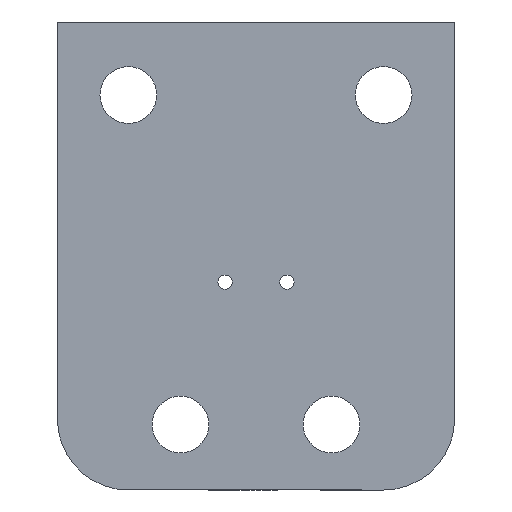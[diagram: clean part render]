
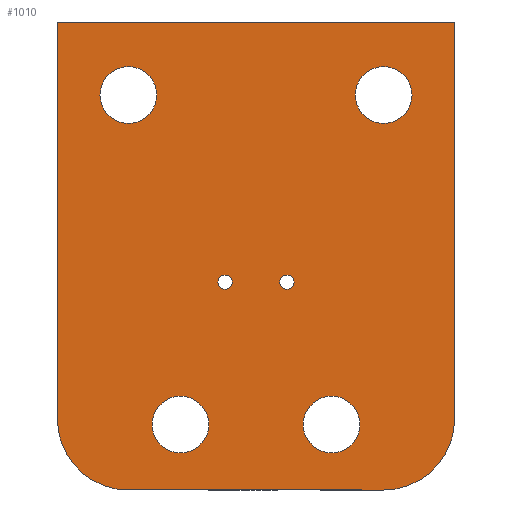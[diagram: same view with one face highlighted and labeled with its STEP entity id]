
A CAD part, left-side view. The second image highlights one B-rep face of the part: STEP entity #1010.
In plain terms, the highlighted planar face has unit normal (-1, 0, 0).
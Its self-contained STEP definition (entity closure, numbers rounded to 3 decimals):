
#136=CARTESIAN_POINT('',(-9.,-1.683,14.657));
#137=VERTEX_POINT('',#136);
#152=CARTESIAN_POINT('',(-9.,-2.183,14.657));
#153=DIRECTION('',(0.,1.,0.));
#154=DIRECTION('',(-1.,0.,0.));
#155=AXIS2_PLACEMENT_3D('',#152,#154,#153);
#156=CIRCLE('',#155,0.5);
#157=EDGE_CURVE('',#137,#137,#156,.T.);
#169=CARTESIAN_POINT('',(-9.,2.683,14.657));
#170=VERTEX_POINT('',#169);
#185=CARTESIAN_POINT('',(-9.,2.183,14.657));
#186=DIRECTION('',(0.,1.,0.));
#187=DIRECTION('',(-1.,0.,0.));
#188=AXIS2_PLACEMENT_3D('',#185,#187,#186);
#189=CIRCLE('',#188,0.5);
#190=EDGE_CURVE('',#170,#170,#189,.T.);
#202=CARTESIAN_POINT('',(-9.,11.,27.85));
#203=VERTEX_POINT('',#202);
#218=CARTESIAN_POINT('',(-9.,9.,27.85));
#219=DIRECTION('',(0.,1.,0.));
#220=DIRECTION('',(-1.,0.,0.));
#221=AXIS2_PLACEMENT_3D('',#218,#220,#219);
#222=CIRCLE('',#221,2.);
#223=EDGE_CURVE('',#203,#203,#222,.T.);
#242=CARTESIAN_POINT('',(-9.,-7.,27.85));
#243=VERTEX_POINT('',#242);
#250=CARTESIAN_POINT('',(-9.,-9.,27.85));
#251=DIRECTION('',(0.,1.,0.));
#252=DIRECTION('',(-1.,0.,0.));
#253=AXIS2_PLACEMENT_3D('',#250,#252,#251);
#254=CIRCLE('',#253,2.);
#255=EDGE_CURVE('',#243,#243,#254,.T.);
#276=CARTESIAN_POINT('',(-9.,9.,0.));
#277=VERTEX_POINT('',#276);
#284=CARTESIAN_POINT('',(-9.,-9.,0.));
#285=VERTEX_POINT('',#284);
#286=CARTESIAN_POINT('',(-9.,-9.,0.));
#287=DIRECTION('',(0.,1.,0.));
#288=VECTOR('',#287,18.);
#289=LINE('',#286,#288);
#290=EDGE_CURVE('',#285,#277,#289,.T.);
#309=CARTESIAN_POINT('',(-9.,14.,5.));
#310=VERTEX_POINT('',#309);
#311=CARTESIAN_POINT('',(-9.,14.,33.));
#312=VERTEX_POINT('',#311);
#313=CARTESIAN_POINT('',(-9.,14.,5.));
#314=DIRECTION('',(0.,0.,1.));
#315=VECTOR('',#314,28.);
#316=LINE('',#313,#315);
#317=EDGE_CURVE('',#310,#312,#316,.T.);
#359=CARTESIAN_POINT('',(-9.,-14.,5.));
#360=VERTEX_POINT('',#359);
#367=CARTESIAN_POINT('',(-9.,-14.,33.));
#368=VERTEX_POINT('',#367);
#369=CARTESIAN_POINT('',(-9.,-14.,33.));
#370=DIRECTION('',(0.,0.,-1.));
#371=VECTOR('',#370,28.);
#372=LINE('',#369,#371);
#373=EDGE_CURVE('',#368,#360,#372,.T.);
#398=CARTESIAN_POINT('',(-9.,9.,5.));
#399=DIRECTION('',(0.,1.,0.));
#400=DIRECTION('',(-1.,0.,0.));
#401=AXIS2_PLACEMENT_3D('',#398,#400,#399);
#402=CIRCLE('',#401,5.);
#403=EDGE_CURVE('',#310,#277,#402,.T.);
#422=CARTESIAN_POINT('',(-9.,-9.,5.));
#423=DIRECTION('',(0.,0.,-1.));
#424=DIRECTION('',(-1.,0.,0.));
#425=AXIS2_PLACEMENT_3D('',#422,#424,#423);
#426=CIRCLE('',#425,5.);
#427=EDGE_CURVE('',#285,#360,#426,.T.);
#660=CARTESIAN_POINT('',(-9.,-14.,33.));
#661=DIRECTION('',(0.,1.,0.));
#662=VECTOR('',#661,28.);
#663=LINE('',#660,#662);
#664=EDGE_CURVE('',#368,#312,#663,.T.);
#963=CARTESIAN_POINT('',(-9.,9.653,13.575));
#964=DIRECTION('',(0.,-1.,0.));
#965=DIRECTION('',(-1.,0.,0.));
#966=AXIS2_PLACEMENT_3D('',#963,#965,#964);
#967=PLANE('',#966);
#968=ORIENTED_EDGE('',*,*,#373,.F.);
#969=ORIENTED_EDGE('',*,*,#664,.T.);
#970=ORIENTED_EDGE('',*,*,#317,.F.);
#971=ORIENTED_EDGE('',*,*,#403,.T.);
#972=ORIENTED_EDGE('',*,*,#290,.F.);
#973=ORIENTED_EDGE('',*,*,#427,.T.);
#974=EDGE_LOOP('',(#968,#969,#970,#971,#972,#973));
#975=FACE_OUTER_BOUND('',#974,.T.);
#976=ORIENTED_EDGE('',*,*,#255,.F.);
#977=EDGE_LOOP('',(#976));
#978=FACE_BOUND('',#977,.T.);
#979=ORIENTED_EDGE('',*,*,#223,.F.);
#980=EDGE_LOOP('',(#979));
#981=FACE_BOUND('',#980,.T.);
#982=ORIENTED_EDGE('',*,*,#157,.F.);
#983=EDGE_LOOP('',(#982));
#984=FACE_BOUND('',#983,.T.);
#985=ORIENTED_EDGE('',*,*,#190,.F.);
#986=EDGE_LOOP('',(#985));
#987=FACE_BOUND('',#986,.T.);
#988=CARTESIAN_POINT('',(-9.,-3.33,4.612));
#989=VERTEX_POINT('',#988);
#990=CARTESIAN_POINT('',(-9.,-5.33,4.612));
#991=DIRECTION('',(0.,1.,0.));
#992=DIRECTION('',(-1.,0.,0.));
#993=AXIS2_PLACEMENT_3D('',#990,#992,#991);
#994=CIRCLE('',#993,2.);
#995=EDGE_CURVE('',#989,#989,#994,.T.);
#996=ORIENTED_EDGE('E99',*,*,#995,.F.);
#997=EDGE_LOOP('',(#996));
#998=FACE_BOUND('',#997,.T.);
#999=CARTESIAN_POINT('',(-9.,7.33,4.612));
#1000=VERTEX_POINT('',#999);
#1001=CARTESIAN_POINT('',(-9.,5.33,4.612));
#1002=DIRECTION('',(0.,1.,0.));
#1003=DIRECTION('',(-1.,0.,0.));
#1004=AXIS2_PLACEMENT_3D('',#1001,#1003,#1002);
#1005=CIRCLE('',#1004,2.);
#1006=EDGE_CURVE('',#1000,#1000,#1005,.T.);
#1007=ORIENTED_EDGE('E100',*,*,#1006,.F.);
#1008=EDGE_LOOP('',(#1007));
#1009=FACE_BOUND('',#1008,.T.);
#1010=ADVANCED_FACE('F73',(#975,#978,#981,#984,#987,#998,#1009),#967,.T.);
